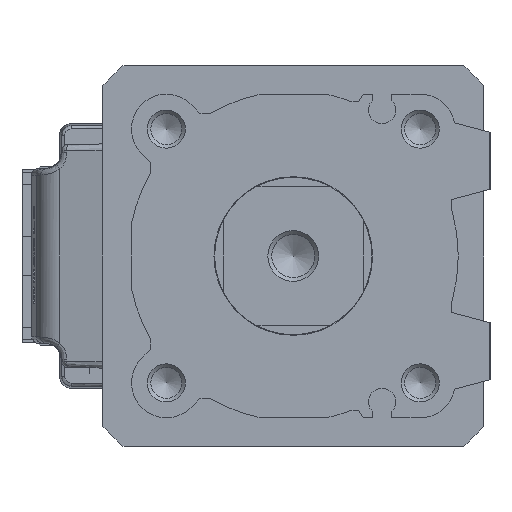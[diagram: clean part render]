
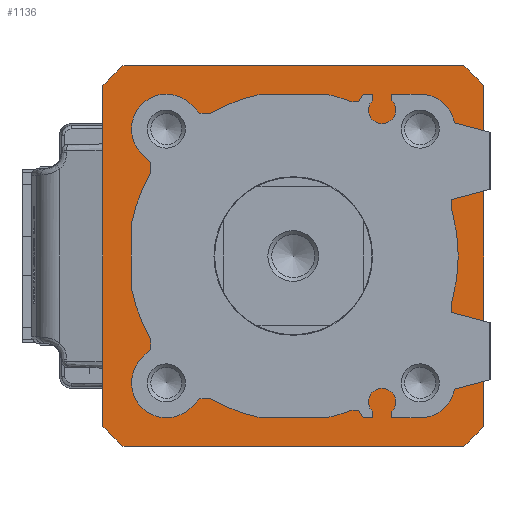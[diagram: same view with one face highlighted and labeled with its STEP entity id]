
A CAD part, left-side view. The second image highlights one B-rep face of the part: STEP entity #1136.
In plain terms, the highlighted planar face has unit normal (-1, 0, 0) as drawn and (0, 0, 1) by its records, which use the part's own axes.
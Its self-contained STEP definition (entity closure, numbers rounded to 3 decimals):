
#121 = DIRECTION ( 'NONE',  ( 0., 0., 1. ) ) ;
#400 = VERTEX_POINT ( 'NONE', #3210 ) ;
#641 = LINE ( 'NONE', #35190, #48698 ) ;
#735 = CARTESIAN_POINT ( 'NONE',  ( 0., 0., 0. ) ) ;
#1136 = ADVANCED_FACE ( 'NONE', ( #12945, #36222 ), #29076, .T. ) ;
#2286 = LINE ( 'NONE', #17907, #12649 ) ;
#2593 = ORIENTED_EDGE ( 'NONE', *, *, #31897, .F. ) ;
#3194 = ORIENTED_EDGE ( 'NONE', *, *, #23905, .T. ) ;
#3210 = CARTESIAN_POINT ( 'NONE',  ( -30., 26.834, 0. ) ) ;
#4291 = CARTESIAN_POINT ( 'NONE',  ( 0., 0., 0. ) ) ;
#4319 = EDGE_CURVE ( 'NONE', #50279, #15894, #32448, .T. ) ;
#4801 = DIRECTION ( 'NONE',  ( 1., 0., 0. ) ) ;
#4998 = DIRECTION ( 'NONE',  ( -1., 0., 0. ) ) ;
#5018 = DIRECTION ( 'NONE',  ( 0., 0., 1. ) ) ;
#7090 = EDGE_LOOP ( 'NONE', ( #31445, #7848, #38336, #35159, #22278, #3194, #44723, #15856 ) ) ;
#7192 = LINE ( 'NONE', #10827, #49375 ) ;
#7408 = EDGE_CURVE ( 'NONE', #21657, #39231, #19718, .T. ) ;
#7848 = ORIENTED_EDGE ( 'NONE', *, *, #14151, .T. ) ;
#8501 = CIRCLE ( 'NONE', #49364, 40.25 ) ;
#8581 = CARTESIAN_POINT ( 'NONE',  ( 0., 0., 0. ) ) ;
#8890 = DIRECTION ( 'NONE',  ( 0., -1., 0. ) ) ;
#9169 = EDGE_CURVE ( 'NONE', #36353, #49998, #8501, .T. ) ;
#9466 = AXIS2_PLACEMENT_3D ( 'NONE', #735, #24573, #20482 ) ;
#10226 = EDGE_CURVE ( 'NONE', #19587, #400, #29052, .T. ) ;
#10420 = AXIS2_PLACEMENT_3D ( 'NONE', #14003, #41406, #25809 ) ;
#10671 = CARTESIAN_POINT ( 'NONE',  ( -30., -26.834, 0. ) ) ;
#10827 = CARTESIAN_POINT ( 'NONE',  ( 30., -26.834, 0. ) ) ;
#11195 = CARTESIAN_POINT ( 'NONE',  ( -26.834, -30., 0. ) ) ;
#11281 = VERTEX_POINT ( 'NONE', #11195 ) ;
#11302 = EDGE_CURVE ( 'NONE', #11281, #36353, #2286, .T. ) ;
#12459 = DIRECTION ( 'NONE',  ( 0., 0., 1. ) ) ;
#12649 = VECTOR ( 'NONE', #49601, 1000. ) ;
#12945 = FACE_BOUND ( 'NONE', #21417, .T. ) ;
#13670 = CARTESIAN_POINT ( 'NONE',  ( 0., 0., 0. ) ) ;
#14003 = CARTESIAN_POINT ( 'NONE',  ( 0., 0., 0. ) ) ;
#14151 = EDGE_CURVE ( 'NONE', #400, #43762, #32182, .T. ) ;
#15856 = ORIENTED_EDGE ( 'NONE', *, *, #35309, .T. ) ;
#15894 = VERTEX_POINT ( 'NONE', #42485 ) ;
#16069 = DIRECTION ( 'NONE',  ( 1., 0., 0. ) ) ;
#16576 = CARTESIAN_POINT ( 'NONE',  ( -30., 26.834, 0. ) ) ;
#17907 = CARTESIAN_POINT ( 'NONE',  ( -26.834, -30., 0. ) ) ;
#19338 = AXIS2_PLACEMENT_3D ( 'NONE', #8581, #5018, #28067 ) ;
#19587 = VERTEX_POINT ( 'NONE', #27134 ) ;
#19718 = CIRCLE ( 'NONE', #26262, 40.25 ) ;
#19935 = CARTESIAN_POINT ( 'NONE',  ( 0., 0., 0. ) ) ;
#20482 = DIRECTION ( 'NONE',  ( 1., 0., 0. ) ) ;
#21417 = EDGE_LOOP ( 'NONE', ( #2593, #29882 ) ) ;
#21657 = VERTEX_POINT ( 'NONE', #50246 ) ;
#22278 = ORIENTED_EDGE ( 'NONE', *, *, #9169, .T. ) ;
#22874 = DIRECTION ( 'NONE',  ( 0., 1., 0. ) ) ;
#23598 = CARTESIAN_POINT ( 'NONE',  ( 26.834, 30., 0. ) ) ;
#23905 = EDGE_CURVE ( 'NONE', #49998, #21657, #7192, .T. ) ;
#23972 = CARTESIAN_POINT ( 'NONE',  ( 15.6, 0., 0. ) ) ;
#24286 = DIRECTION ( 'NONE',  ( 0., 0., 1. ) ) ;
#24573 = DIRECTION ( 'NONE',  ( 0., 0., 1. ) ) ;
#25050 = CIRCLE ( 'NONE', #9466, 15.6 ) ;
#25809 = DIRECTION ( 'NONE',  ( 1., 0., 0. ) ) ;
#26262 = AXIS2_PLACEMENT_3D ( 'NONE', #35173, #121, #34186 ) ;
#27134 = CARTESIAN_POINT ( 'NONE',  ( -26.834, 30., 0. ) ) ;
#28067 = DIRECTION ( 'NONE',  ( 1., 0., 0. ) ) ;
#28405 = EDGE_CURVE ( 'NONE', #43762, #11281, #48700, .T. ) ;
#29052 = CIRCLE ( 'NONE', #38846, 40.25 ) ;
#29076 = PLANE ( 'NONE',  #19338 ) ;
#29281 = DIRECTION ( 'NONE',  ( 1., 0., 0. ) ) ;
#29882 = ORIENTED_EDGE ( 'NONE', *, *, #4319, .F. ) ;
#31445 = ORIENTED_EDGE ( 'NONE', *, *, #10226, .T. ) ;
#31897 = EDGE_CURVE ( 'NONE', #15894, #50279, #25050, .T. ) ;
#32182 = LINE ( 'NONE', #16576, #35874 ) ;
#32448 = CIRCLE ( 'NONE', #10420, 15.6 ) ;
#33167 = AXIS2_PLACEMENT_3D ( 'NONE', #13670, #41566, #29281 ) ;
#34186 = DIRECTION ( 'NONE',  ( 1., 0., 0. ) ) ;
#34875 = CARTESIAN_POINT ( 'NONE',  ( 30., -26.834, 0. ) ) ;
#35159 = ORIENTED_EDGE ( 'NONE', *, *, #11302, .T. ) ;
#35173 = CARTESIAN_POINT ( 'NONE',  ( 0., 0., 0. ) ) ;
#35190 = CARTESIAN_POINT ( 'NONE',  ( 26.834, 30., 0. ) ) ;
#35309 = EDGE_CURVE ( 'NONE', #39231, #19587, #641, .T. ) ;
#35874 = VECTOR ( 'NONE', #8890, 1000. ) ;
#36222 = FACE_OUTER_BOUND ( 'NONE', #7090, .T. ) ;
#36353 = VERTEX_POINT ( 'NONE', #40021 ) ;
#38336 = ORIENTED_EDGE ( 'NONE', *, *, #28405, .T. ) ;
#38846 = AXIS2_PLACEMENT_3D ( 'NONE', #19935, #12459, #16069 ) ;
#39231 = VERTEX_POINT ( 'NONE', #23598 ) ;
#40021 = CARTESIAN_POINT ( 'NONE',  ( 26.834, -30., 0. ) ) ;
#41406 = DIRECTION ( 'NONE',  ( 0., 0., 1. ) ) ;
#41566 = DIRECTION ( 'NONE',  ( 0., 0., 1. ) ) ;
#42485 = CARTESIAN_POINT ( 'NONE',  ( -15.6, 0., 0. ) ) ;
#43762 = VERTEX_POINT ( 'NONE', #10671 ) ;
#44723 = ORIENTED_EDGE ( 'NONE', *, *, #7408, .T. ) ;
#48698 = VECTOR ( 'NONE', #4998, 1000. ) ;
#48700 = CIRCLE ( 'NONE', #33167, 40.25 ) ;
#49364 = AXIS2_PLACEMENT_3D ( 'NONE', #4291, #24286, #4801 ) ;
#49375 = VECTOR ( 'NONE', #22874, 1000. ) ;
#49601 = DIRECTION ( 'NONE',  ( 1., 0., 0. ) ) ;
#49998 = VERTEX_POINT ( 'NONE', #34875 ) ;
#50246 = CARTESIAN_POINT ( 'NONE',  ( 30., 26.834, 0. ) ) ;
#50279 = VERTEX_POINT ( 'NONE', #23972 ) ;
